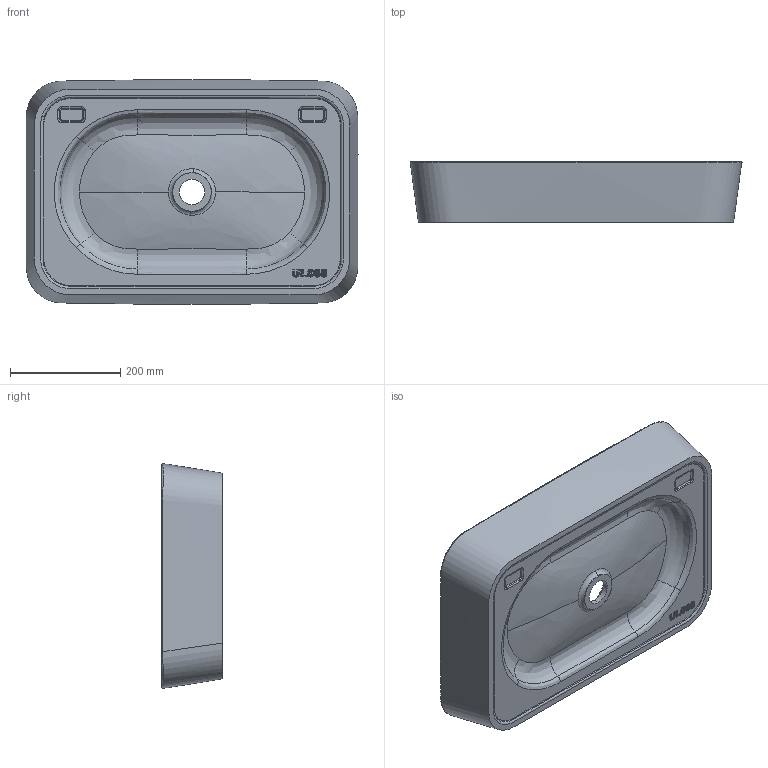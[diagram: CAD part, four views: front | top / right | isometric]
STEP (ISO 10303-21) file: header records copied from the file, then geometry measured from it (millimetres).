
FILE_DESCRIPTION (( 'STEP AP203' ), '1' );
FILE_NAME ('UL060 2 basýnçlý.STEP', '2021-12-24T12:52:48', ( '' ), ( '' ), 'SwSTEP 2.0', 'SolidWorks 2021', '' );
FILE_SCHEMA (( 'CONFIG_CONTROL_DESIGN' ));
Length unit declared in the file: millimetre
Products named in the file (1): UL060 2 basýnçlý
Bounding box: 602.77 x 110 x 408.25 mm (x, y, z)
Volume: 9005289.9 mm3; surface area: 760883.9 mm2
Topology: 1 solids, 2 shells, 312 faces, 748 edges, 440 vertices
Faces by surface type: bspline 173, cylinder 59, plane 32, torus 31, sphere 11, cone 6
Entity records: 45820 total; most frequent: CARTESIAN_POINT 39852, ORIENTED_EDGE 1474, DIRECTION 842, EDGE_CURVE 737, VERTEX_POINT 439, B_SPLINE_CURVE_WITH_KNOTS 374, AXIS2_PLACEMENT_3D 341, EDGE_LOOP 326
